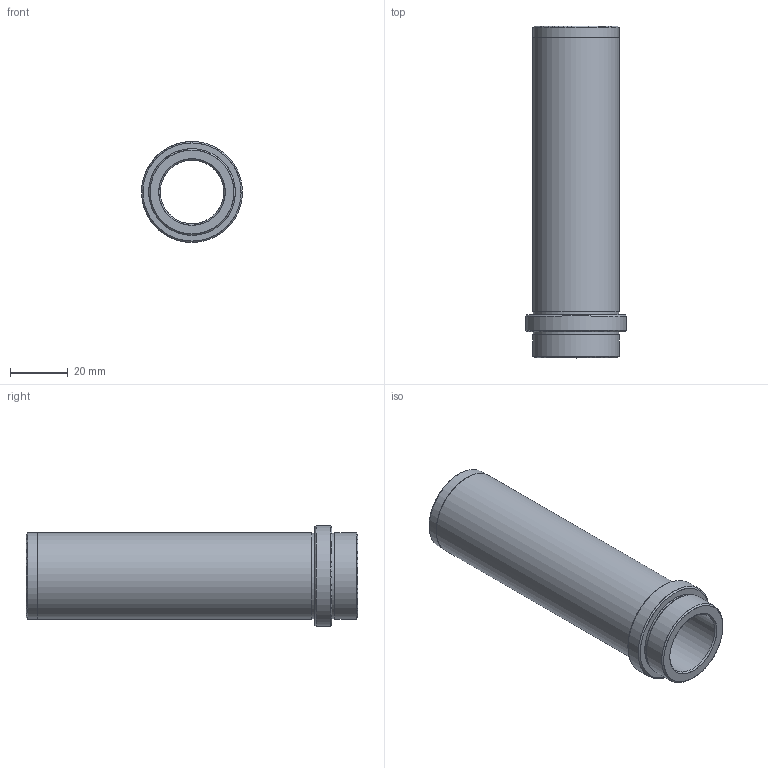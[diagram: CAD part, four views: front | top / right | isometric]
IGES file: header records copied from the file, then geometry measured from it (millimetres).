
Start section: Missler Software BP 521, 31674 Labege Cedex, France Tel   : +33 (0)5 61 00 03 00 Fax   : +33 (0)5 61 00 03 03 Email : sup.topsolid@topsolid.com
Global section: file name: D:\Cuma\24 03 2009\D21\D21_22X106.igs; native system: TopSolid v605250 Missler Software; preprocessor: IGES preprocessor v100000; date: 030101.000657; units: millimetre
Bounding box: 34.98 x 115 x 35 mm (x, y, z)
Surface area: 20009.6 mm2 (no closed solid volume)
Topology: 0 solids, 0 shells, 20 faces, 496 edges, 486 vertices
Faces by surface type: bspline 20
